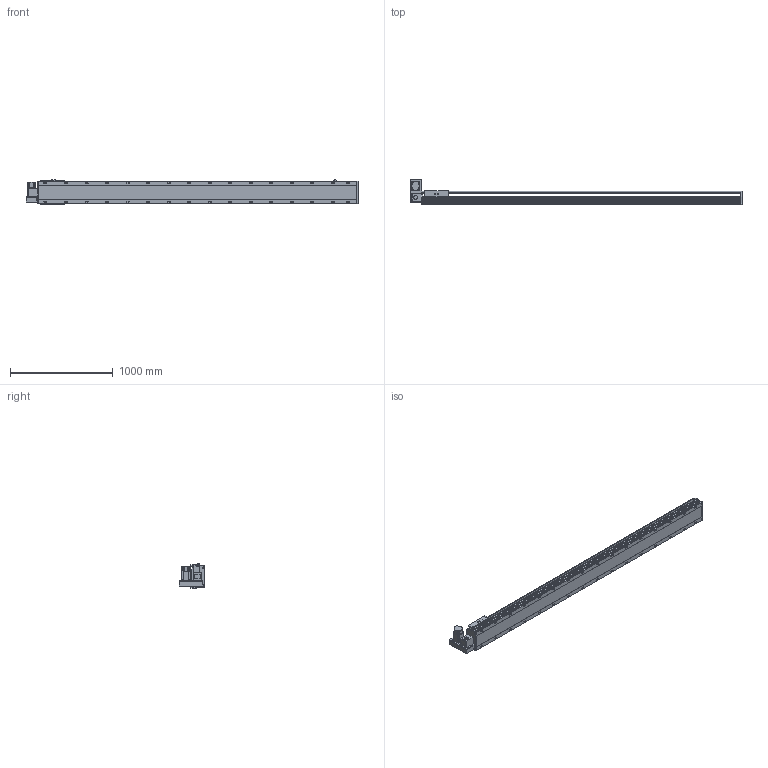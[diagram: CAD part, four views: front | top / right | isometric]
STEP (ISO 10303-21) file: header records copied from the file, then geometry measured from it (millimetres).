
FILE_DESCRIPTION(/* description */ ('STEP AP214'),/* implementation_level */ '2;1');
FILE_NAME(/* name */ 'PBS220-P40-S2750-LU-T75-C1-N(0)',/* time_stamp */ '2022-06-13T02:39:24+02:00',/* author */ ('License CC BY-ND 4.0'),/* organization */ ('CADENAS'),/* preprocessor_version */ 'ST-DEVELOPER v18.102',/* originating_system */ 'PARTsolutions',/* authorisation */ ' ');
FILE_SCHEMA (('AUTOMOTIVE_DESIGN {1 0 10303 214 3 1 1}'));
Length unit declared in the file: millimetre
Products named in the file (7): PBS220-P40-S2750-LU-T75-C1-N(0); PBS220_sensor; PBS220_plant; PBS220_sliser; T75-p1; PBS220T-LU_motors; PBS220-S2750()_body
Assembly tree (8 placements, depth 2):
  PBS220-P40-S2750-LU-T75-C1-N(0)
    PBS220_sensor  x3
    PBS220_plant
    PBS220_sliser
    T75-p1
    PBS220T-LU_motors
    PBS220-S2750()_body
Bounding box: 3234 x 247 x 238.5 mm (x, y, z)
Volume: 45026023.8 mm3; surface area: 4105703.4 mm2
Topology: 8 solids, 8 shells, 1010 faces, 2620 edges, 1702 vertices
Faces by surface type: plane 630, cylinder 324, cone 56
Full cylindrical faces by diameter (mm): 2.013 x4, 4.5 x14, 4.917 x4, 6 x7, 6.647 x8, 8 x10, 8.376 x32, 8.5 x32, 10 x6, 14 x32, 38 x2, 40 x1, 70 x1
Entity records: 28125 total; most frequent: CARTESIAN_POINT 5020, DIRECTION 4887, ORIENTED_EDGE 4394, EDGE_CURVE 2197, AXIS2_PLACEMENT_3D 1763, VERTEX_POINT 1544, LINE 1361, VECTOR 1361
